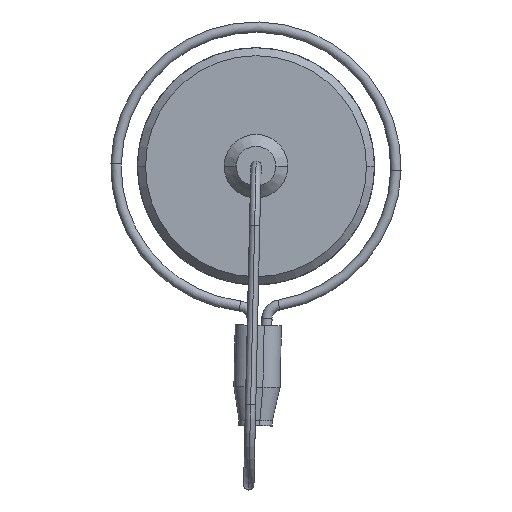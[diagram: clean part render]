
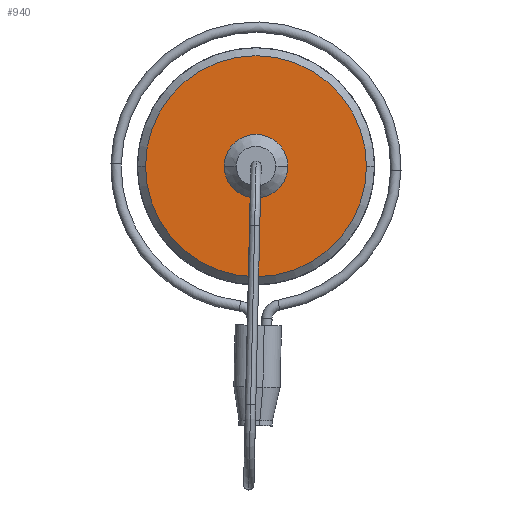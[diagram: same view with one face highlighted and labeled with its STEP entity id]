
A CAD part, top view. The second image highlights one B-rep face of the part: STEP entity #940.
In plain terms, the highlighted planar face has unit normal (0, 0, 1).
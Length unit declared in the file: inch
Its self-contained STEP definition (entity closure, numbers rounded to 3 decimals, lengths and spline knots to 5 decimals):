
#723 = ORIENTED_EDGE ( 'NONE', *, *, #20236, .T. ) ;
#938 = CARTESIAN_POINT ( 'NONE',  ( 0.695, 0., 0.275 ) ) ;
#940 = ADVANCED_FACE ( 'NONE', ( #30621, #22462 ), #2579, .T. ) ;
#1485 = VERTEX_POINT ( 'NONE', #26899 ) ;
#2349 = ORIENTED_EDGE ( 'NONE', *, *, #23424, .T. ) ;
#2564 = EDGE_CURVE ( 'NONE', #18123, #29093, #3591, .T. ) ;
#2579 = PLANE ( 'NONE',  #16894 ) ;
#3591 = CIRCLE ( 'NONE', #36248, 0.2 ) ;
#4247 = DIRECTION ( 'NONE',  ( 1., 0., 0. ) ) ;
#4874 = CARTESIAN_POINT ( 'NONE',  ( 0., 0., 0.275 ) ) ;
#5573 = DIRECTION ( 'NONE',  ( -1., 0., 0. ) ) ;
#5832 = AXIS2_PLACEMENT_3D ( 'NONE', #29559, #26964, #21202 ) ;
#7621 = CARTESIAN_POINT ( 'NONE',  ( 0., 0., 0.275 ) ) ;
#7626 = CARTESIAN_POINT ( 'NONE',  ( -0.2, 0., 0.275 ) ) ;
#7813 = DIRECTION ( 'NONE',  ( 1., 0., 0. ) ) ;
#9150 = AXIS2_PLACEMENT_3D ( 'NONE', #4874, #32722, #22132 ) ;
#10003 = DIRECTION ( 'NONE',  ( 0., 0., -1. ) ) ;
#10236 = ORIENTED_EDGE ( 'NONE', *, *, #24069, .T. ) ;
#12425 = EDGE_LOOP ( 'NONE', ( #15819, #2349 ) ) ;
#12869 = AXIS2_PLACEMENT_3D ( 'NONE', #7621, #22490, #7813 ) ;
#13343 = CARTESIAN_POINT ( 'NONE',  ( 0., -0.2, 0.275 ) ) ;
#15819 = ORIENTED_EDGE ( 'NONE', *, *, #2564, .T. ) ;
#16894 = AXIS2_PLACEMENT_3D ( 'NONE', #13343, #33422, #5573 ) ;
#18123 = VERTEX_POINT ( 'NONE', #19307 ) ;
#19307 = CARTESIAN_POINT ( 'NONE',  ( 0.2, 0., 0.275 ) ) ;
#20236 = EDGE_CURVE ( 'NONE', #32925, #1485, #25129, .T. ) ;
#21202 = DIRECTION ( 'NONE',  ( -1., 0., 0. ) ) ;
#22132 = DIRECTION ( 'NONE',  ( -1., 0., 0. ) ) ;
#22222 = EDGE_LOOP ( 'NONE', ( #723, #10236 ) ) ;
#22415 = CIRCLE ( 'NONE', #5832, 0.695 ) ;
#22462 = FACE_BOUND ( 'NONE', #12425, .T. ) ;
#22490 = DIRECTION ( 'NONE',  ( 0., 0., -1. ) ) ;
#23424 = EDGE_CURVE ( 'NONE', #29093, #18123, #28892, .T. ) ;
#24069 = EDGE_CURVE ( 'NONE', #1485, #32925, #22415, .T. ) ;
#25129 = CIRCLE ( 'NONE', #9150, 0.695 ) ;
#26899 = CARTESIAN_POINT ( 'NONE',  ( -0.695, 0., 0.275 ) ) ;
#26964 = DIRECTION ( 'NONE',  ( 0., 0., 1. ) ) ;
#28892 = CIRCLE ( 'NONE', #12869, 0.2 ) ;
#29093 = VERTEX_POINT ( 'NONE', #7626 ) ;
#29559 = CARTESIAN_POINT ( 'NONE',  ( 0., 0., 0.275 ) ) ;
#30621 = FACE_OUTER_BOUND ( 'NONE', #22222, .T. ) ;
#32722 = DIRECTION ( 'NONE',  ( 0., 0., 1. ) ) ;
#32925 = VERTEX_POINT ( 'NONE', #938 ) ;
#33422 = DIRECTION ( 'NONE',  ( 0., 0., 1. ) ) ;
#35673 = CARTESIAN_POINT ( 'NONE',  ( 0., 0., 0.275 ) ) ;
#36248 = AXIS2_PLACEMENT_3D ( 'NONE', #35673, #10003, #4247 ) ;
